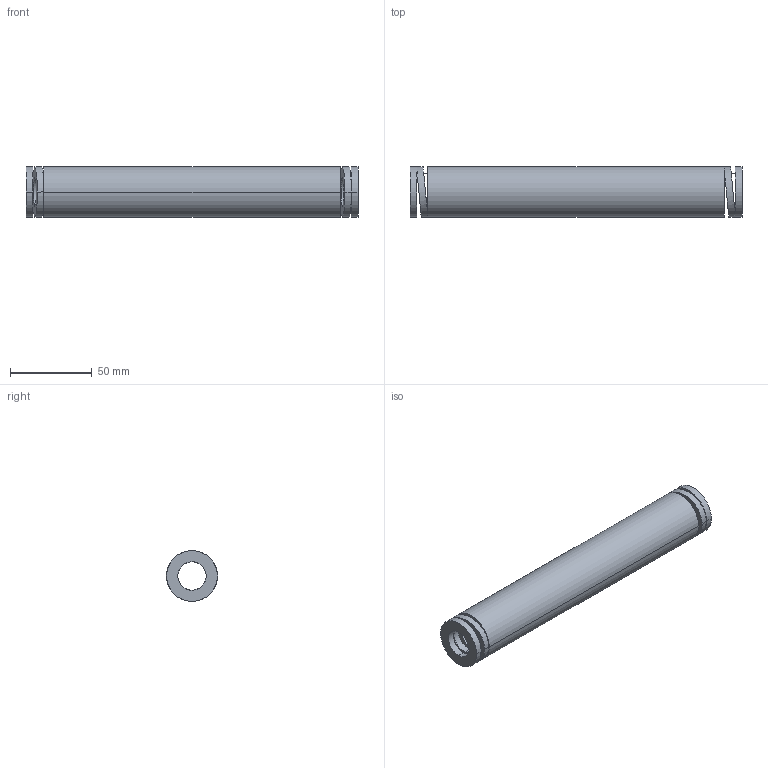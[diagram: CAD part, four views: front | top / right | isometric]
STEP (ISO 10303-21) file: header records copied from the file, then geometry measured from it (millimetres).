
FILE_DESCRIPTION(('CATIA V5 STEP Exchange'),'2;1');
FILE_NAME('C:\Users\Utente\Desktop\IO LAVORO\3D X SITO CF\X SITO\3D files 392B\392-B32-203.stp','2021-08-13T08:49:10+00:00',('none'),('none'),'CATIA Version 5 Release 20 GA (IN-10)','CATIA V5 STEP AP203','none');
FILE_SCHEMA(('CONFIG_CONTROL_DESIGN'));
Length unit declared in the file: millimetre
Products named in the file (1): 392-B32-203
Bounding box: 203 x 31.24 x 31 mm (x, y, z)
Volume: 101874.1 mm3; surface area: 35136.4 mm2
Topology: 1 solids, 1 shells, 38 faces, 92 edges, 64 vertices
Faces by surface type: cylinder 28, plane 10
Entity records: 1560 total; most frequent: CARTESIAN_POINT 667, ORIENTED_EDGE 184, DIRECTION 131, EDGE_CURVE 92, AXIS2_PLACEMENT_3D 66, VERTEX_POINT 64, EDGE_LOOP 56, ADVANCED_FACE 38
